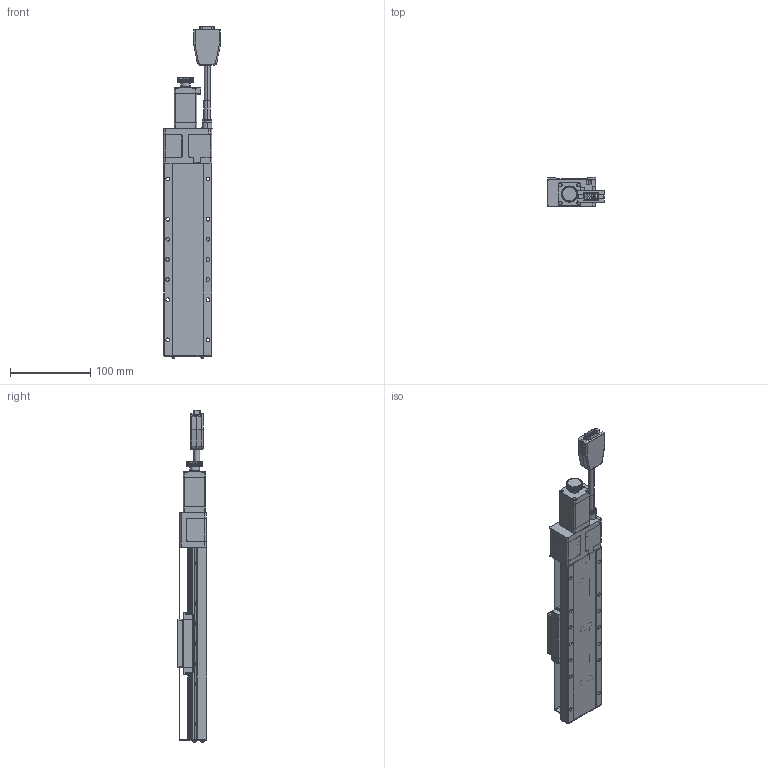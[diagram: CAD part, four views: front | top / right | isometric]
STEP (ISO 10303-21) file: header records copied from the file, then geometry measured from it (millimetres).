
FILE_DESCRIPTION (( 'STEP AP203' ), '1' );
FILE_NAME ('CXC60150-S2?N(.STEP', '2023-09-28T07:29:27', ( '' ), ( '' ), 'SwSTEP 2.0', 'SolidWorks 2019', '' );
FILE_SCHEMA (( 'CONFIG_CONTROL_DESIGN' ));
Length unit declared in the file: millimetre
Products named in the file (4): CXC60150-S2?N(; CXN60_GMT; Group1^CXC60150-S2?N(2023新版)_defeature_GMT; Group2^CXC60150-S2?N(2023新版)_defeature_GMT
Assembly tree (3 placements, depth 2):
  CXC60150-S2?N(
    Group1^CXC60150-S2?N(2023新版)_defeature_GMT
    Group2^CXC60150-S2?N(2023新版)_defeature_GMT
    CXN60_GMT
Bounding box: 70.5 x 37 x 413.25 mm (x, y, z)
Volume: 48645.1 mm3; surface area: 156243.8 mm2
Topology: 23 solids, 28 shells, 4379 faces, 11316 edges, 6997 vertices
Faces by surface type: plane 1689, cylinder 1331, cone 546, torus 422, bspline 241, sphere 150
Entity records: 145970 total; most frequent: CARTESIAN_POINT 39710, DIRECTION 22447, ORIENTED_EDGE 22356, EDGE_CURVE 11178, AXIS2_PLACEMENT_3D 8524, VERTEX_POINT 6989, LINE 5399, VECTOR 5399
